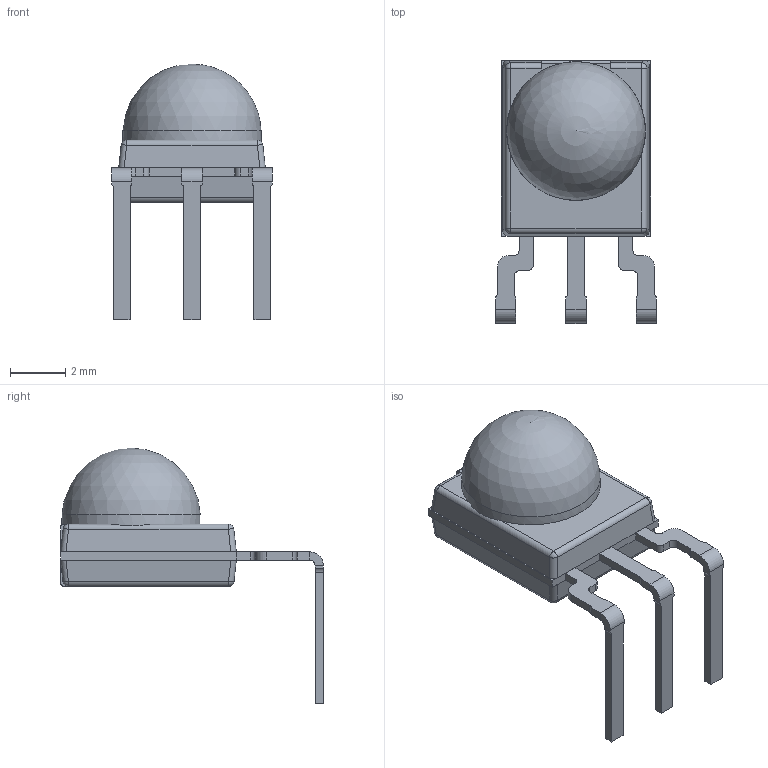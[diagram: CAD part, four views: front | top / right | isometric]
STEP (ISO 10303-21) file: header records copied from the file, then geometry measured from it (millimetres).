
FILE_DESCRIPTION((''),'2;1');
FILE_NAME('C:\temp\_step\Hauschildt\Minimold_ST.stp','2016-06-09T16:21:46',('gobenland'),(''),'Autodesk Inventor 2013','Autodesk Inventor 2013','');
FILE_SCHEMA(('AUTOMOTIVE_DESIGN { 1 0 10303 214 1 1 1 1 }'));
Length unit declared in the file: millimetre
Products named in the file (3): GO-100226.3.iam (Datenblatt); GO-100226; GO-100226.03
Assembly tree (2 placements, depth 2):
  GO-100226.3.iam (Datenblatt)
    GO-100226
    GO-100226.03
Bounding box: 5.81 x 9.5 x 9.25 mm (x, y, z)
Volume: 115.5 mm3; surface area: 185.2 mm2
Topology: 4 solids, 4 shells, 140 faces, 339 edges, 207 vertices
Faces by surface type: plane 83, cylinder 47, sphere 9, cone 1
Full cylindrical faces by diameter (mm): 2.5 x1
Entity records: 4233 total; most frequent: DIRECTION 719, CARTESIAN_POINT 706, ORIENTED_EDGE 668, EDGE_CURVE 334, AXIS2_PLACEMENT_3D 243, VECTOR 233, LINE 233, VERTEX_POINT 205
